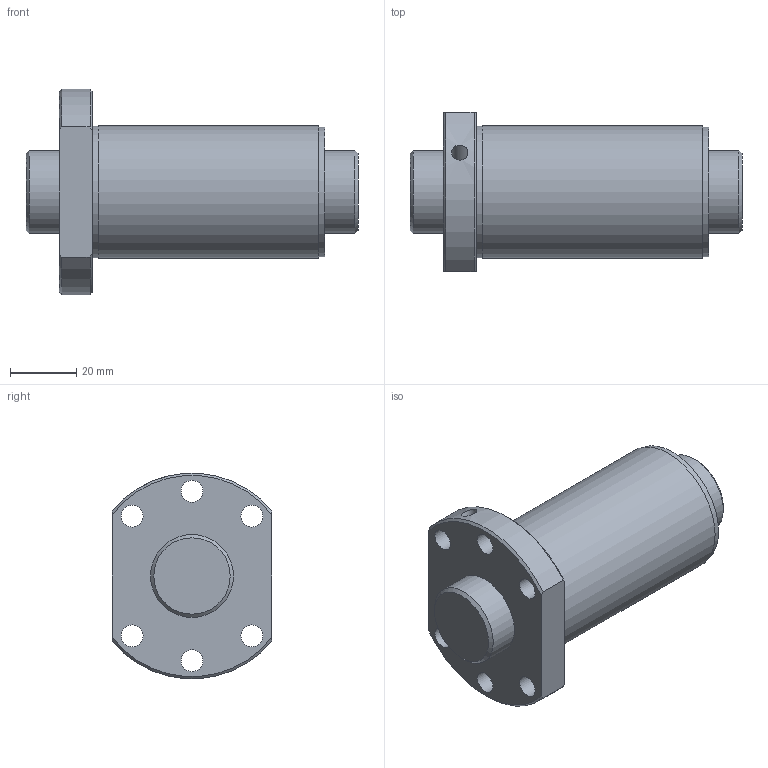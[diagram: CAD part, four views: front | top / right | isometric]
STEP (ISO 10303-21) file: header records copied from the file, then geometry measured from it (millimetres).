
FILE_DESCRIPTION(/* description */ ('STEP AP203'),/* implementation_level */ '2;1');
FILE_NAME(/* name */ 'SDA2525V-3G0+100LC0(0G000)',/* time_stamp */ '2024-05-28T11:30:48+02:00',/* author */ ('License CC BY-ND 4.0'),/* organization */ ('CADENAS'),/* preprocessor_version */ 'ST-DEVELOPER v19.3',/* originating_system */ 'PARTsolutions',/* authorisation */ ' ');
FILE_SCHEMA (('CONFIG_CONTROL_DESIGN'));
Length unit declared in the file: millimetre
Products named in the file (3): SDA2525V-3G0+100LC0(0G000); 000SDA2525V-30Shaft; SDA-V serieSDA2525V-3nut
Assembly tree (2 placements, depth 2):
  SDA2525V-3G0+100LC0(0G000)
    000SDA2525V-30Shaft
    SDA-V serieSDA2525V-3nut
Bounding box: 100 x 48 x 61.8 mm (x, y, z)
Volume: 121558.9 mm3; surface area: 31031.7 mm2
Topology: 2 solids, 2 shells, 31 faces, 74 edges, 50 vertices
Faces by surface type: cylinder 15, plane 9, cone 7
Full cylindrical faces by diameter (mm): 3.9 x1, 4.917 x1, 6.6 x6, 25 x2, 39 x1, 39.6 x1, 40 x1
Entity records: 915 total; most frequent: CARTESIAN_POINT 174, DIRECTION 144, ORIENTED_EDGE 104, AXIS2_PLACEMENT_3D 68, EDGE_LOOP 66, FACE_BOUND 66, EDGE_CURVE 52, VERTEX_POINT 44
